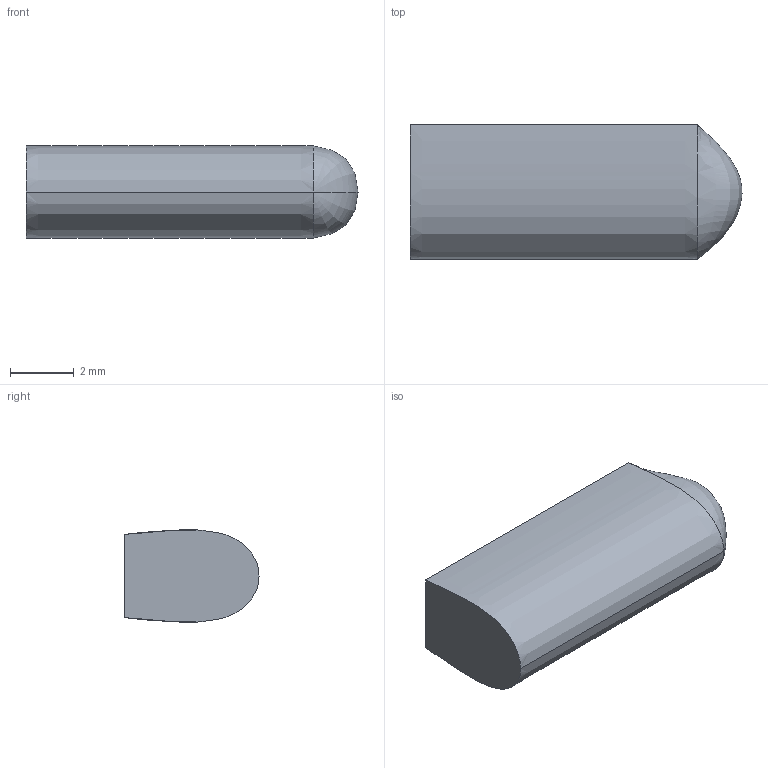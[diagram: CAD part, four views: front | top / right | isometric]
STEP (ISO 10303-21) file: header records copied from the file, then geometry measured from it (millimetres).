
FILE_DESCRIPTION((''),'1');
FILE_NAME('ELEK-ST14-24E','2001-03-29T',('rgoetz'),(''),'PRO/ENGINEER BY PARAMETRIC TECHNOLOGY CORPORATION, 2000350','PRO/ENGINEER BY PARAMETRIC TECHNOLOGY CORPORATION, 2000350','');
FILE_SCHEMA(('CONFIG_CONTROL_DESIGN'));
Length unit declared in the file: millimetre
Products named in the file (1): ELEK-ST14-24E
Bounding box: 10.4 x 4.2 x 2.9 mm (x, y, z)
Volume: 105.3 mm3; surface area: 140.2 mm2
Topology: 1 solids, 1 shells, 6 faces, 13 edges, 7 vertices
Faces by surface type: plane 2, extrusion 2, bspline 2
Entity records: 678 total; most frequent: CARTESIAN_POINT 533, ORIENTED_EDGE 22, DIRECTION 12, EDGE_CURVE 11, VECTOR 8, VERTEX_POINT 7, B_SPLINE_CURVE_WITH_KNOTS 7, LINE 6
